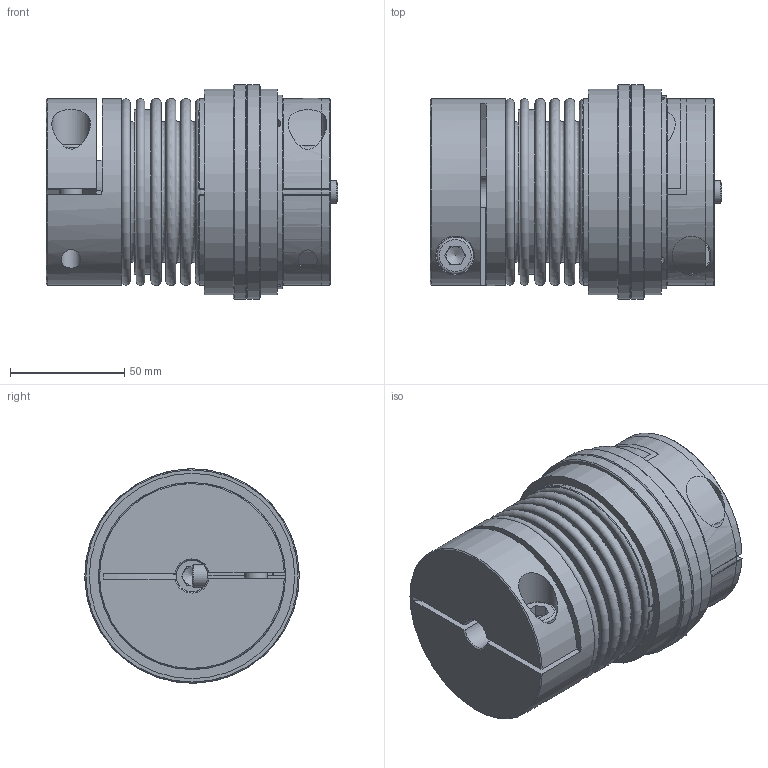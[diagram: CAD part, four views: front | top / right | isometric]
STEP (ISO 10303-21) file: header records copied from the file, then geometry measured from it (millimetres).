
FILE_DESCRIPTION( ( 'Unknown' ), '1' );
FILE_NAME( 'C:/Dokumente und Einstellungen/SKarpstein/Desktop/Korrigierte 3D Modelle/KBK-BKK-80-125.stp', 'Unknown', ( 'Unknown' ), ( 'Unknown' ), 'XStep 1.0', 'Unknown', ' ' );
FILE_SCHEMA( ( 'automotive_design' ) );
Length unit declared in the file: millimetre
Products named in the file (11): Assem1; Assem2; Zylinderschraube DIN 912_1; Stellring 80; Druckring 80; KBK L-K-80 Grundkörper; Klemmnabe 80; Flansch BK150; BL80-150_Standard_3; KN80-150_Standard_6; Socket Head Cap Screw_DIN_DIN 912 M10 x 30 --- 30N_5
Bounding box: 127.95 x 94 x 94 mm (x, y, z)
Volume: 934905.3 mm3; surface area: 359139.4 mm2
Topology: 19 solids, 19 shells, 417 faces, 876 edges, 579 vertices
Faces by surface type: plane 208, cylinder 98, cone 59, torus 52
Full cylindrical faces by diameter (mm): 3.242 x6, 5 x8, 5.2 x6, 8.376 x2, 8.5 x2, 10 x9, 10.5 x2, 14 x2, 16 x5, 17 x4, 19 x2, 37.5 x2, 40 x4, 42 x2, 48 x2, 52 x2, 62 x4, 70 x2, 70.7 x4, 71.9 x4, 82 x2, 85 x2, 87 x2, 90 x4, 94 x2
Entity records: 5803 total; most frequent: CARTESIAN_POINT 1513, DIRECTION 867, ORIENTED_EDGE 608, AXIS2_PLACEMENT_3D 387, EDGE_LOOP 358, EDGE_CURVE 304, FACE_OUTER_BOUND 270, VERTEX_POINT 251
